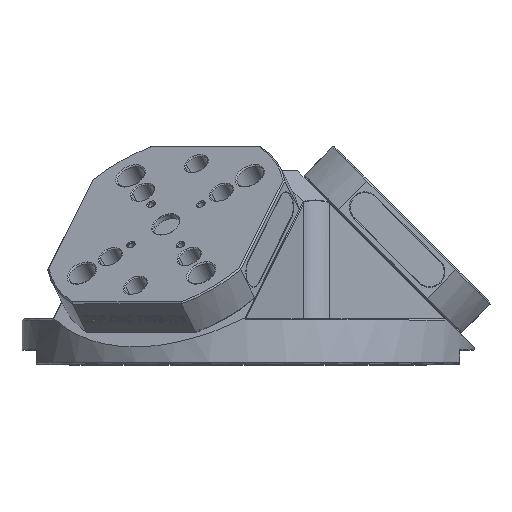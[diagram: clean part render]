
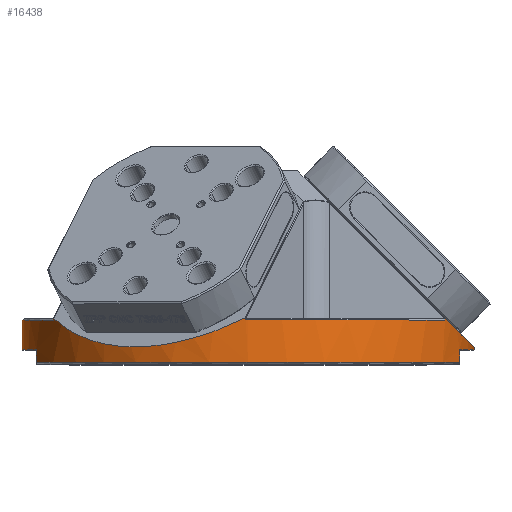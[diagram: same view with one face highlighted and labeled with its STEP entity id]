
A CAD part, top view. The second image highlights one B-rep face of the part: STEP entity #16438.
In plain terms, the highlighted cylindrical face has radius 157.5 mm (diameter 315 mm), a partial arc.
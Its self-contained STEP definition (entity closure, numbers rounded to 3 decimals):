
#12041=CARTESIAN_POINT('',(0.,1.5,0.));
#12042=DIRECTION('',(0.,1.,0.));
#12043=DIRECTION('',(-0.937,0.,0.351));
#12044=AXIS2_PLACEMENT_3D('',#12041,#12042,#12043);
#12046=CARTESIAN_POINT('',(0.,1.5,0.));
#12047=DIRECTION('',(0.,1.,0.));
#12048=DIRECTION('',(0.,0.,1.));
#12049=AXIS2_PLACEMENT_3D('',#12046,#12047,#12048);
#12095=DIRECTION('',(0.,-1.,0.));
#12096=VECTOR('',#12095,20.5);
#12097=CARTESIAN_POINT('',(-157.5,31.,0.));
#12098=LINE('',#12097,#12096);
#12376=CARTESIAN_POINT('',(157.5,12.206,0.));
#12377=CARTESIAN_POINT('',(157.5,12.206,14.449));
#12378=CARTESIAN_POINT('',(153.636,16.07,41.448));
#12379=CARTESIAN_POINT('',(143.813,25.893,65.519));
#12380=CARTESIAN_POINT('',(137.476,32.229,76.854));
#12476=CARTESIAN_POINT('',(-135.588,31.803,
80.138));
#12477=CARTESIAN_POINT('',(-135.491,31.945,
80.303));
#12478=CARTESIAN_POINT('',(-135.393,32.087,
80.467));
#12479=CARTESIAN_POINT('',(-135.295,32.229,
80.631));
#12481=CARTESIAN_POINT('',(-2.181,32.229,
157.485));
#12482=CARTESIAN_POINT('',(-1.99,32.087,
157.488));
#12483=CARTESIAN_POINT('',(-1.799,31.945,
157.49));
#12484=CARTESIAN_POINT('',(-1.608,31.803,
157.492));
#12486=DIRECTION('',(0.,-1.,0.));
#12487=VECTOR('',#12486,0.803);
#12488=CARTESIAN_POINT('',(-1.608,31.803,
157.492));
#12489=LINE('',#12488,#12487);
#12490=DIRECTION('',(0.,1.,0.));
#12491=VECTOR('',#12490,0.803);
#12492=CARTESIAN_POINT('',(137.196,31.,77.354));
#12493=LINE('',#12492,#12491);
#12494=CARTESIAN_POINT('',(137.196,31.803,77.354));
#12495=CARTESIAN_POINT('',(137.29,31.945,77.187));
#12496=CARTESIAN_POINT('',(137.383,32.087,77.02));
#12497=CARTESIAN_POINT('',(137.476,32.229,76.854));
#12499=DIRECTION('',(0.,-1.,0.));
#12500=VECTOR('',#12499,1.706);
#12501=CARTESIAN_POINT('',(157.5,12.206,0.));
#12502=LINE('',#12501,#12500);
#12503=DIRECTION('',(0.,-1.,0.));
#12504=VECTOR('',#12503,9.);
#12505=CARTESIAN_POINT('',(147.5,10.5,55.227));
#12506=LINE('',#12505,#12504);
#12507=DIRECTION('',(0.,1.,0.));
#12508=VECTOR('',#12507,9.);
#12509=CARTESIAN_POINT('',(-147.5,1.5,55.227));
#12510=LINE('',#12509,#12508);
#12511=DIRECTION('',(0.,1.,0.));
#12512=VECTOR('',#12511,0.803);
#12513=CARTESIAN_POINT('',(-135.588,31.,
80.138));
#12514=LINE('',#12513,#12512);
#12523=CARTESIAN_POINT('',(0.,31.,
0.));
#12524=DIRECTION('',(0.,-1.,0.));
#12525=DIRECTION('',(-0.861,0.,0.509));
#12526=AXIS2_PLACEMENT_3D('',#12523,#12524,#12525);
#12743=CARTESIAN_POINT('',(137.196,31.,77.354));
#12745=CARTESIAN_POINT('',(0.,31.,
0.));
#12746=DIRECTION('',(0.,-1.,0.));
#12747=DIRECTION('',(0.871,0.,0.491));
#12748=AXIS2_PLACEMENT_3D('',#12745,#12746,#12747);
#12750=CARTESIAN_POINT('',(0.,31.,
0.));
#12751=DIRECTION('',(0.,-1.,0.));
#12752=DIRECTION('',(0.,0.,1.));
#12753=AXIS2_PLACEMENT_3D('',#12750,#12751,#12752);
#12843=CARTESIAN_POINT('',(-2.181,32.229,
157.485));
#12844=CARTESIAN_POINT('',(-16.854,25.069,
157.282));
#12845=CARTESIAN_POINT('',(-43.928,15.293,
152.938));
#12846=CARTESIAN_POINT('',(-79.522,10.662,
137.736));
#12847=CARTESIAN_POINT('',(-110.485,15.293,
114.512));
#12848=CARTESIAN_POINT('',(-127.783,25.069,
93.237));
#12849=CARTESIAN_POINT('',(-135.295,32.229,
80.631));
#13728=CARTESIAN_POINT('',(0.,10.5,
0.));
#13729=DIRECTION('',(0.,1.,0.));
#13730=DIRECTION('',(0.937,0.,0.351));
#13731=AXIS2_PLACEMENT_3D('',#13728,#13729,#13730);
#13780=CARTESIAN_POINT('',(0.,10.5,
0.));
#13781=DIRECTION('',(0.,1.,0.));
#13782=DIRECTION('',(-1.,0.,0.));
#13783=AXIS2_PLACEMENT_3D('',#13780,#13781,#13782);
#15145=VERTEX_POINT('',#12743);
#15146=CARTESIAN_POINT('',(0.,31.,157.5));
#15147=VERTEX_POINT('',#15146);
#15148=CARTESIAN_POINT('',(-1.608,31.,
157.492));
#15149=VERTEX_POINT('',#15148);
#15151=CARTESIAN_POINT('',(137.196,31.803,77.354));
#15153=VERTEX_POINT('',#15151);
#15154=VERTEX_POINT('',#12497);
#15157=VERTEX_POINT('',#12476);
#15158=VERTEX_POINT('',#12479);
#15159=VERTEX_POINT('',#12843);
#15160=VERTEX_POINT('',#12484);
#15161=VERTEX_POINT('',#12376);
#15162=CARTESIAN_POINT('',(157.5,10.5,0.));
#15163=VERTEX_POINT('',#15162);
#15164=CARTESIAN_POINT('',(147.5,10.5,55.227));
#15165=VERTEX_POINT('',#15164);
#15166=CARTESIAN_POINT('',(147.5,1.5,55.227));
#15167=VERTEX_POINT('',#15166);
#15168=CARTESIAN_POINT('',(0.,1.5,157.5));
#15169=VERTEX_POINT('',#15168);
#15170=CARTESIAN_POINT('',(-147.5,1.5,55.227));
#15171=VERTEX_POINT('',#15170);
#15172=CARTESIAN_POINT('',(-147.5,10.5,55.227));
#15173=VERTEX_POINT('',#15172);
#15174=CARTESIAN_POINT('',(-157.5,10.5,0.));
#15175=VERTEX_POINT('',#15174);
#15176=CARTESIAN_POINT('',(-157.5,31.,0.));
#15177=VERTEX_POINT('',#15176);
#15178=CARTESIAN_POINT('',(-135.588,31.,
80.138));
#15179=VERTEX_POINT('',#15178);
#16400=CARTESIAN_POINT('',(0.,0.,0.));
#16401=DIRECTION('',(0.,1.,0.));
#16402=DIRECTION('',(1.,0.,0.));
#16403=AXIS2_PLACEMENT_3D('',#16400,#16401,#16402);
#16404=CYLINDRICAL_SURFACE('',#16403,157.5);
#16406=ORIENTED_EDGE('',*,*,#16405,.T.);
#16408=ORIENTED_EDGE('',*,*,#16407,.F.);
#16410=ORIENTED_EDGE('',*,*,#16409,.T.);
#16412=ORIENTED_EDGE('',*,*,#16411,.T.);
#16414=ORIENTED_EDGE('',*,*,#16413,.F.);
#16416=ORIENTED_EDGE('',*,*,#16415,.F.);
#16418=ORIENTED_EDGE('',*,*,#16417,.T.);
#16419=ORIENTED_EDGE('',*,*,#16390,.T.);
#16420=ORIENTED_EDGE('',*,*,#16326,.F.);
#16421=ORIENTED_EDGE('',*,*,#16094,.T.);
#16423=ORIENTED_EDGE('',*,*,#16422,.F.);
#16425=ORIENTED_EDGE('',*,*,#16424,.T.);
#16426=ORIENTED_EDGE('',*,*,#16041,.F.);
#16427=ORIENTED_EDGE('',*,*,#16039,.F.);
#16428=ORIENTED_EDGE('',*,*,#16066,.T.);
#16430=ORIENTED_EDGE('',*,*,#16429,.F.);
#16431=ORIENTED_EDGE('',*,*,#16083,.F.);
#16433=ORIENTED_EDGE('',*,*,#16432,.F.);
#16435=ORIENTED_EDGE('',*,*,#16434,.T.);
#16436=EDGE_LOOP('',(#16406,#16408,#16410,#16412,#16414,#16416,#16418,#16419,
#16420,#16421,#16423,#16425,#16426,#16427,#16428,#16430,#16431,#16433,#16435));
#16437=FACE_OUTER_BOUND('',#16436,.F.);
#16438=ADVANCED_FACE('',(#16437),#16404,.T.);
#12045=CIRCLE('',#12044,157.5);
#12050=CIRCLE('',#12049,157.5);
#12381=B_SPLINE_CURVE_WITH_KNOTS('',3,(#12376,#12377,#12378,#12379,#12380),
.UNSPECIFIED.,.F.,.F.,(4,1,4),(0.,0.5,1.),.UNSPECIFIED.);
#12480=B_SPLINE_CURVE_WITH_KNOTS('',3,(#12476,#12477,#12478,#12479),
.UNSPECIFIED.,.F.,.F.,(4,4),(0.,1.),.UNSPECIFIED.);
#12485=B_SPLINE_CURVE_WITH_KNOTS('',3,(#12481,#12482,#12483,#12484),
.UNSPECIFIED.,.F.,.F.,(4,4),(0.,1.),.UNSPECIFIED.);
#12498=B_SPLINE_CURVE_WITH_KNOTS('',3,(#12494,#12495,#12496,#12497),
.UNSPECIFIED.,.F.,.F.,(4,4),(0.,1.),.UNSPECIFIED.);
#12527=CIRCLE('',#12526,157.5);
#12749=CIRCLE('',#12748,157.5);
#12754=CIRCLE('',#12753,157.5);
#12850=B_SPLINE_CURVE_WITH_KNOTS('',3,(#12843,#12844,#12845,#12846,#12847,
#12848,#12849),.UNSPECIFIED.,.F.,.F.,(4,1,1,1,4),(0.,0.25,0.5,0.75,
1.),.UNSPECIFIED.);
#13732=CIRCLE('',#13731,157.5);
#13784=CIRCLE('',#13783,157.5);
#16039=EDGE_CURVE('',#15171,#15169,#12045,.T.);
#16041=EDGE_CURVE('',#15169,#15167,#12050,.T.);
#16066=EDGE_CURVE('',#15171,#15173,#12510,.T.);
#16083=EDGE_CURVE('',#15177,#15175,#12098,.T.);
#16094=EDGE_CURVE('',#15161,#15163,#12502,.T.);
#16326=EDGE_CURVE('',#15161,#15154,#12381,.T.);
#16390=EDGE_CURVE('',#15153,#15154,#12498,.T.);
#16405=EDGE_CURVE('',#15157,#15158,#12480,.T.);
#16407=EDGE_CURVE('',#15159,#15158,#12850,.T.);
#16409=EDGE_CURVE('',#15159,#15160,#12485,.T.);
#16411=EDGE_CURVE('',#15160,#15149,#12489,.T.);
#16413=EDGE_CURVE('',#15147,#15149,#12754,.T.);
#16415=EDGE_CURVE('',#15145,#15147,#12749,.T.);
#16417=EDGE_CURVE('',#15145,#15153,#12493,.T.);
#16422=EDGE_CURVE('',#15165,#15163,#13732,.T.);
#16424=EDGE_CURVE('',#15165,#15167,#12506,.T.);
#16429=EDGE_CURVE('',#15175,#15173,#13784,.T.);
#16432=EDGE_CURVE('',#15179,#15177,#12527,.T.);
#16434=EDGE_CURVE('',#15179,#15157,#12514,.T.);
